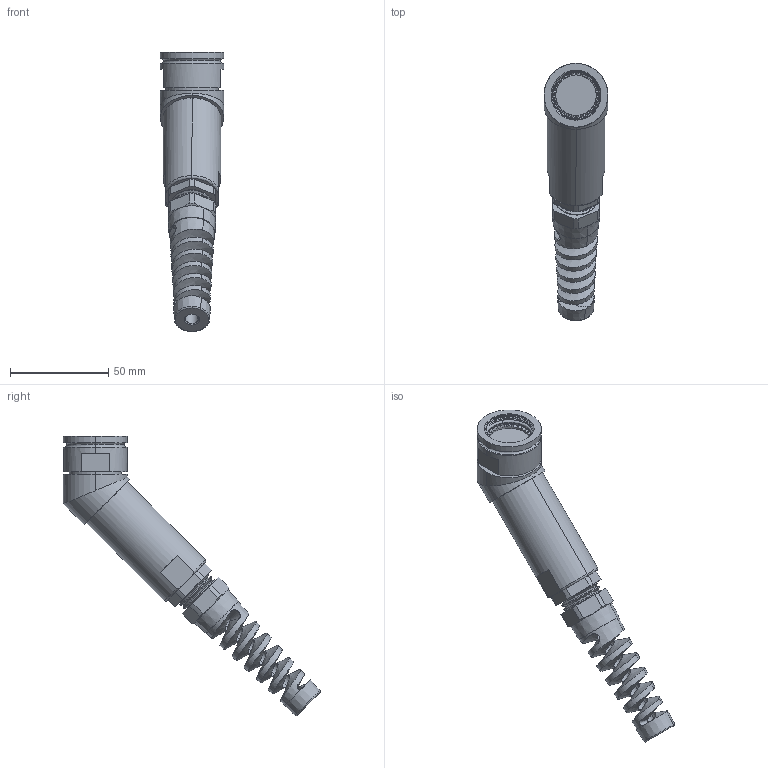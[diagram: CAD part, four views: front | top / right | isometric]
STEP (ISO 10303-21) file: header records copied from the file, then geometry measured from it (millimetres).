
FILE_DESCRIPTION (( 'STEP AP214' ), '1' );
FILE_NAME ('Q38SHELL-45X-17-XXXX-GB.STEP', '2025-09-25T20:53:44', ( '' ), ( '' ), 'SwSTEP 2.0', 'SolidWorks 2024', '' );
FILE_SCHEMA (( 'AUTOMOTIVE_DESIGN' ));
Length unit declared in the file: millimetre
Products named in the file (1): Q38SHELL-45X-17-XXXX-GB
Bounding box: 32.59 x 131.14 x 142.5 mm (x, y, z)
Volume: 85958.8 mm3; surface area: 22842 mm2
Topology: 2 solids, 3 shells, 293 faces, 918 edges, 644 vertices
Faces by surface type: plane 153, cylinder 73, cone 41, torus 13, bspline 13
Entity records: 17868 total; most frequent: CARTESIAN_POINT 10297, ORIENTED_EDGE 1832, DIRECTION 1349, EDGE_CURVE 916, VERTEX_POINT 644, AXIS2_PLACEMENT_3D 550, EDGE_LOOP 312, ADVANCED_FACE 293
